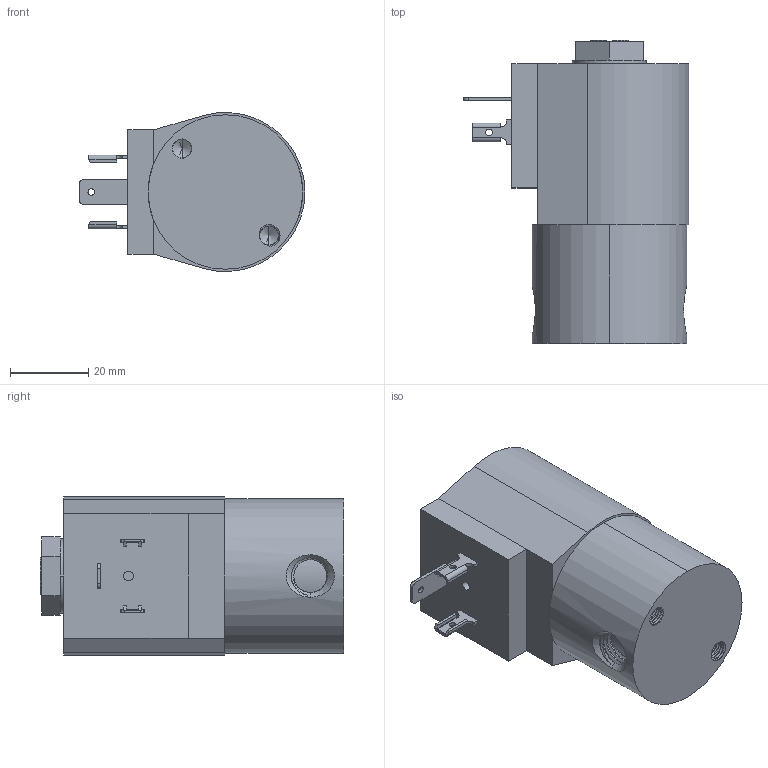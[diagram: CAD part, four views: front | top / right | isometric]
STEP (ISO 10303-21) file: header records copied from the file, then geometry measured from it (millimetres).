
FILE_DESCRIPTION (( 'STEP AP203' ), '1' );
FILE_NAME ('S301Y_B.STEP', '2021-05-19T18:23:18', ( '' ), ( '' ), 'SwSTEP 2.0', 'SolidWorks 2020', '' );
FILE_SCHEMA (( 'CONFIG_CONTROL_DESIGN' ));
Length unit declared in the file: inch
Products named in the file (1): S301Y_B
Bounding box: 57.73 x 77.5 x 40.57 mm (x, y, z)
Volume: 98526.6 mm3; surface area: 17218.9 mm2
Topology: 2 solids, 2 shells, 202 faces, 532 edges, 342 vertices
Faces by surface type: cylinder 88, plane 79, bspline 21, cone 14
Entity records: 13883 total; most frequent: CARTESIAN_POINT 9310, ORIENTED_EDGE 1056, DIRECTION 807, EDGE_CURVE 528, VERTEX_POINT 342, AXIS2_PLACEMENT_3D 276, LINE 255, VECTOR 255
